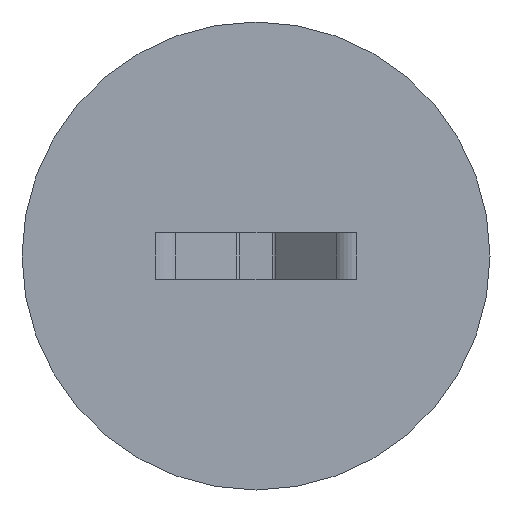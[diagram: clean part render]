
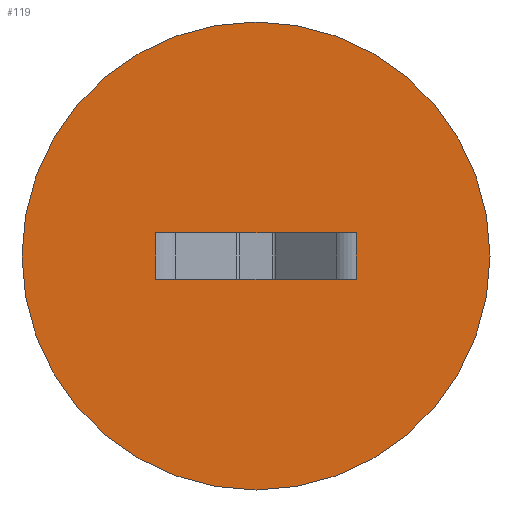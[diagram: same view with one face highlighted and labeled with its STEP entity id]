
A CAD part, front view. The second image highlights one B-rep face of the part: STEP entity #119.
In plain terms, the highlighted planar face has unit normal (0, -1, 0).
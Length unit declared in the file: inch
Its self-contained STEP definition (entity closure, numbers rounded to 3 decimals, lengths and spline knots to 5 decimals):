
#1 = ORIENTED_EDGE ( 'NONE', *, *, #149, .F. ) ;
#14 = EDGE_LOOP ( 'NONE', ( #468, #1, #693, #634 ) ) ;
#21 = CIRCLE ( 'NONE', #757, 0.625 ) ;
#65 = EDGE_CURVE ( 'NONE', #374, #557, #83, .T. ) ;
#68 = VERTEX_POINT ( 'NONE', #703 ) ;
#83 = CIRCLE ( 'NONE', #552, 0.625 ) ;
#86 = CARTESIAN_POINT ( 'NONE',  ( 0., -0.063, -0.0625 ) ) ;
#92 = CARTESIAN_POINT ( 'NONE',  ( 0., -0.063, -0.0625 ) ) ;
#100 = DIRECTION ( 'NONE',  ( 0., 0., 1. ) ) ;
#119 = ADVANCED_FACE ( 'NONE', ( #133, #379 ), #316, .T. ) ;
#133 = FACE_OUTER_BOUND ( 'NONE', #609, .T. ) ;
#136 = CARTESIAN_POINT ( 'NONE',  ( 0., -0.063, -0.6875 ) ) ;
#141 = DIRECTION ( 'NONE',  ( 0., 0., -1. ) ) ;
#149 = EDGE_CURVE ( 'NONE', #68, #315, #399, .T. ) ;
#155 = CARTESIAN_POINT ( 'NONE',  ( 0.26714, -0.063, -0.125 ) ) ;
#167 = DIRECTION ( 'NONE',  ( 0., 0., -1. ) ) ;
#168 = EDGE_CURVE ( 'NONE', #315, #715, #783, .T. ) ;
#181 = AXIS2_PLACEMENT_3D ( 'NONE', #569, #572, #257 ) ;
#196 = DIRECTION ( 'NONE',  ( 0., 0., 1. ) ) ;
#239 = EDGE_CURVE ( 'NONE', #557, #374, #21, .T. ) ;
#254 = CARTESIAN_POINT ( 'NONE',  ( 0.26714, -0.063, -0.125 ) ) ;
#257 = DIRECTION ( 'NONE',  ( 0., 0., -1. ) ) ;
#261 = VECTOR ( 'NONE', #100, 39.37008 ) ;
#269 = EDGE_CURVE ( 'NONE', #715, #502, #591, .T. ) ;
#280 = CARTESIAN_POINT ( 'NONE',  ( 0.26714, -0.063, -0.125 ) ) ;
#289 = EDGE_CURVE ( 'NONE', #68, #502, #422, .T. ) ;
#294 = CARTESIAN_POINT ( 'NONE',  ( -0.26714, -0.063, -0.125 ) ) ;
#301 = ORIENTED_EDGE ( 'NONE', *, *, #239, .T. ) ;
#315 = VERTEX_POINT ( 'NONE', #254 ) ;
#316 = PLANE ( 'NONE',  #181 ) ;
#348 = DIRECTION ( 'NONE',  ( 1., 0., 0. ) ) ;
#353 = DIRECTION ( 'NONE',  ( -1., 0., 0. ) ) ;
#374 = VERTEX_POINT ( 'NONE', #136 ) ;
#379 = FACE_BOUND ( 'NONE', #14, .T. ) ;
#399 = LINE ( 'NONE', #280, #406 ) ;
#406 = VECTOR ( 'NONE', #348, 39.37008 ) ;
#422 = LINE ( 'NONE', #294, #447 ) ;
#447 = VECTOR ( 'NONE', #196, 39.37008 ) ;
#468 = ORIENTED_EDGE ( 'NONE', *, *, #168, .F. ) ;
#502 = VERTEX_POINT ( 'NONE', #762 ) ;
#525 = DIRECTION ( 'NONE',  ( 0., -1., 0. ) ) ;
#545 = CARTESIAN_POINT ( 'NONE',  ( 0.26714, -0.063, 0. ) ) ;
#552 = AXIS2_PLACEMENT_3D ( 'NONE', #86, #699, #141 ) ;
#557 = VERTEX_POINT ( 'NONE', #584 ) ;
#569 = CARTESIAN_POINT ( 'NONE',  ( -0.625, -0.063, -0.125 ) ) ;
#572 = DIRECTION ( 'NONE',  ( 0., -1., 0. ) ) ;
#584 = CARTESIAN_POINT ( 'NONE',  ( 0., -0.063, 0.5625 ) ) ;
#591 = LINE ( 'NONE', #545, #803 ) ;
#597 = CARTESIAN_POINT ( 'NONE',  ( 0.26714, -0.063, 0. ) ) ;
#609 = EDGE_LOOP ( 'NONE', ( #776, #301 ) ) ;
#634 = ORIENTED_EDGE ( 'NONE', *, *, #269, .F. ) ;
#693 = ORIENTED_EDGE ( 'NONE', *, *, #289, .T. ) ;
#699 = DIRECTION ( 'NONE',  ( 0., -1., 0. ) ) ;
#703 = CARTESIAN_POINT ( 'NONE',  ( -0.26714, -0.063, -0.125 ) ) ;
#715 = VERTEX_POINT ( 'NONE', #597 ) ;
#757 = AXIS2_PLACEMENT_3D ( 'NONE', #92, #525, #167 ) ;
#762 = CARTESIAN_POINT ( 'NONE',  ( -0.26714, -0.063, 0. ) ) ;
#776 = ORIENTED_EDGE ( 'NONE', *, *, #65, .T. ) ;
#783 = LINE ( 'NONE', #155, #261 ) ;
#803 = VECTOR ( 'NONE', #353, 39.37008 ) ;
